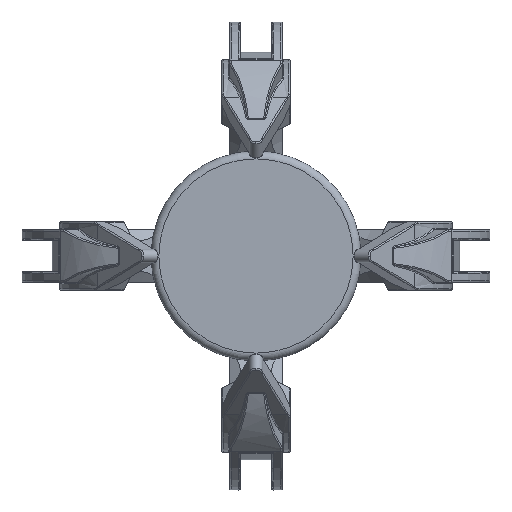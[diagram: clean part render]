
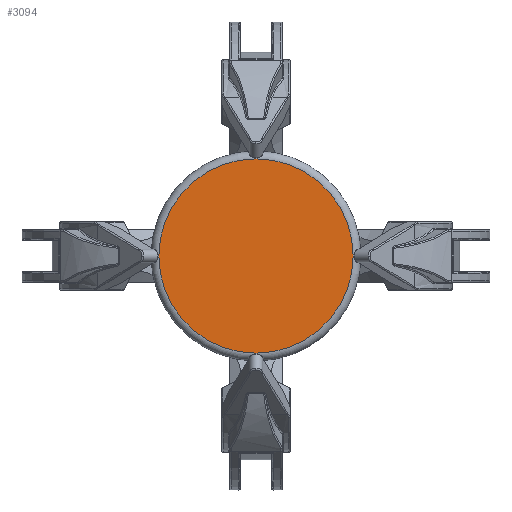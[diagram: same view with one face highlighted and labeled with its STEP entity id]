
A CAD part, front view. The second image highlights one B-rep face of the part: STEP entity #3094.
In plain terms, the highlighted planar face has unit normal (0, -1, 0).
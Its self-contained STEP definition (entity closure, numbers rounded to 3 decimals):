
#1296 = ORIENTED_EDGE ( 'NONE', *, *, #9698, .T. ) ;
#2476 = PLANE ( 'NONE',  #5937 ) ;
#2996 = DIRECTION ( 'NONE',  ( 0., -1., 0. ) ) ;
#3094 = ADVANCED_FACE ( 'NONE', ( #12438 ), #2476, .T. ) ;
#4565 = DIRECTION ( 'NONE',  ( 0., -1., 0. ) ) ;
#5227 = VERTEX_POINT ( 'NONE', #8020 ) ;
#5764 = CIRCLE ( 'NONE', #9102, 370. ) ;
#5786 = DIRECTION ( 'NONE',  ( 0., 0., -1. ) ) ;
#5937 = AXIS2_PLACEMENT_3D ( 'NONE', #6479, #4565, #10479 ) ;
#6036 = VERTEX_POINT ( 'NONE', #10601 ) ;
#6479 = CARTESIAN_POINT ( 'NONE',  ( 69.036, -413., -76.095 ) ) ;
#7792 = CARTESIAN_POINT ( 'NONE',  ( 69.036, -413., -76.095 ) ) ;
#8020 = CARTESIAN_POINT ( 'NONE',  ( 69.036, -413., 293.905 ) ) ;
#8660 = DIRECTION ( 'NONE',  ( 0., -1., 0. ) ) ;
#9102 = AXIS2_PLACEMENT_3D ( 'NONE', #7792, #2996, #11747 ) ;
#9295 = ORIENTED_EDGE ( 'NONE', *, *, #9513, .T. ) ;
#9335 = CIRCLE ( 'NONE', #11854, 370. ) ;
#9513 = EDGE_CURVE ( 'NONE', #5227, #6036, #5764, .T. ) ;
#9656 = CARTESIAN_POINT ( 'NONE',  ( 69.036, -413., -76.095 ) ) ;
#9698 = EDGE_CURVE ( 'NONE', #6036, #5227, #9335, .T. ) ;
#10479 = DIRECTION ( 'NONE',  ( 0., 0., -1. ) ) ;
#10601 = CARTESIAN_POINT ( 'NONE',  ( 69.036, -413., -446.095 ) ) ;
#11747 = DIRECTION ( 'NONE',  ( 0., 0., -1. ) ) ;
#11854 = AXIS2_PLACEMENT_3D ( 'NONE', #9656, #8660, #5786 ) ;
#12415 = EDGE_LOOP ( 'NONE', ( #1296, #9295 ) ) ;
#12438 = FACE_OUTER_BOUND ( 'NONE', #12415, .T. ) ;
